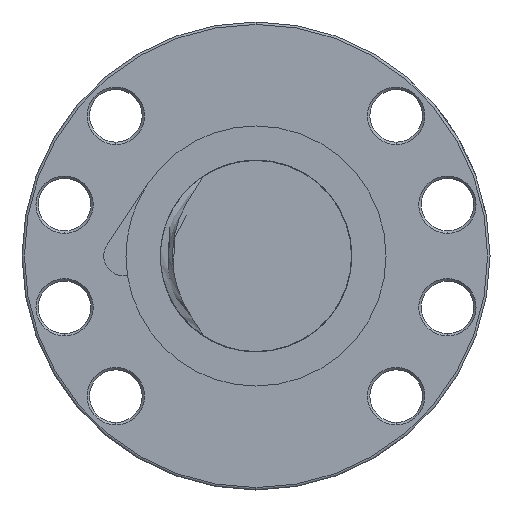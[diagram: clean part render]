
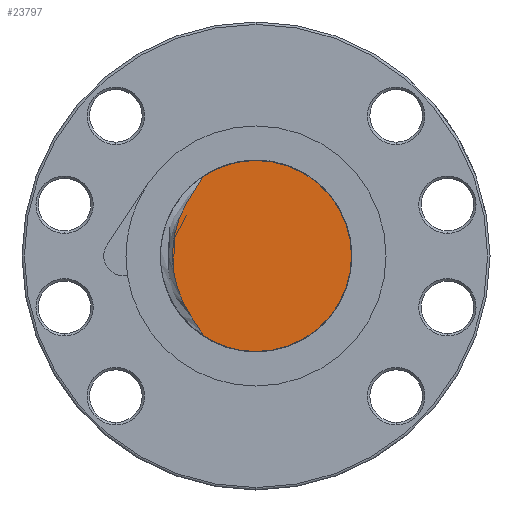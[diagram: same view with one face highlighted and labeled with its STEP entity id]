
A CAD part, left-side view. The second image highlights one B-rep face of the part: STEP entity #23797.
In plain terms, the highlighted planar face has unit normal (-1, 0, 0).
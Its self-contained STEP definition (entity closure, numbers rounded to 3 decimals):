
#9391 = CARTESIAN_POINT ( 'NONE',  ( -320., 0., 0. ) ) ;
#9617 = DIRECTION ( 'NONE',  ( 0., 1., 0. ) ) ;
#9618 = DIRECTION ( 'NONE',  ( 1., 0., 0. ) ) ;
#9619 = AXIS2_PLACEMENT_3D ( 'NONE', #9391, #9618, #9617 ) ;
#9620 = CIRCLE ( 'NONE', #9619, 20. ) ;
#10094 = CARTESIAN_POINT ( 'NONE',  ( -320., 11.062, -16.663 ) ) ;
#10126 = CARTESIAN_POINT ( 'NONE',  ( -320., 0., -20. ) ) ;
#11433 = CIRCLE ( 'NONE', #11505, 20. ) ;
#11502 = DIRECTION ( 'NONE',  ( 0., 1., 0. ) ) ;
#11503 = DIRECTION ( 'NONE',  ( 1., 0., 0. ) ) ;
#11504 = CARTESIAN_POINT ( 'NONE',  ( -320., 0., 0. ) ) ;
#11505 = AXIS2_PLACEMENT_3D ( 'NONE', #11504, #11503, #11502 ) ;
#13303 = DIRECTION ( 'NONE',  ( 0., 0., -1. ) ) ;
#13304 = DIRECTION ( 'NONE',  ( 1., 0., 0. ) ) ;
#13305 = CARTESIAN_POINT ( 'NONE',  ( -320., 0., 0. ) ) ;
#13306 = AXIS2_PLACEMENT_3D ( 'NONE', #13305, #13304, #13303 ) ;
#13307 = PLANE ( 'NONE',  #13306 ) ;
#13308 = FACE_OUTER_BOUND ( 'NONE', #23798, .T. ) ;
#13416 = CARTESIAN_POINT ( 'NONE',  ( -320., 17.365, -3.005 ) ) ;
#13417 = CARTESIAN_POINT ( 'NONE',  ( -320., 17.565, -1.136 ) ) ;
#13418 = CARTESIAN_POINT ( 'NONE',  ( -320., 17.515, 0.759 ) ) ;
#13419 = CARTESIAN_POINT ( 'NONE',  ( -320., 17.474, 1.519 ) ) ;
#13420 = CARTESIAN_POINT ( 'NONE',  ( -320., 17.443, 1.9 ) ) ;
#13421 = CARTESIAN_POINT ( 'NONE',  ( -320., 17.322, 3.033 ) ) ;
#13422 = CARTESIAN_POINT ( 'NONE',  ( -320., 17.201, 3.779 ) ) ;
#13423 = CARTESIAN_POINT ( 'NONE',  ( -320., 16.726, 5.987 ) ) ;
#13424 = CARTESIAN_POINT ( 'NONE',  ( -320., 16.258, 7.424 ) ) ;
#13425 = CARTESIAN_POINT ( 'NONE',  ( -320., 15.041, 10.22 ) ) ;
#13426 = CARTESIAN_POINT ( 'NONE',  ( -320., 14.304, 11.543 ) ) ;
#13427 = CARTESIAN_POINT ( 'NONE',  ( -320., 13.079, 13.458 ) ) ;
#13428 = CARTESIAN_POINT ( 'NONE',  ( -320., 12.649, 14.084 ) ) ;
#13429 = CARTESIAN_POINT ( 'NONE',  ( -320., 12.01, 15.026 ) ) ;
#13430 = CARTESIAN_POINT ( 'NONE',  ( -320., 11.798, 15.34 ) ) ;
#13431 = CARTESIAN_POINT ( 'NONE',  ( -320., 11.497, 15.822 ) ) ;
#13432 = CARTESIAN_POINT ( 'NONE',  ( -320., 11.399, 15.984 ) ) ;
#13433 = CARTESIAN_POINT ( 'NONE',  ( -320., 11.216, 16.315 ) ) ;
#13434 = CARTESIAN_POINT ( 'NONE',  ( -320., 11.131, 16.485 ) ) ;
#13435 = CARTESIAN_POINT ( 'NONE',  ( -320., 11.061, 16.663 ) ) ;
#13437 = B_SPLINE_CURVE_WITH_KNOTS ( 'NONE', 3,
 ( #13435, #13434, #13433, #13432, #13431, #13430, #13429, #13428, #13427, #13426, #13425, #13424, #13423, #13422, #13421, #13420, #13419, #13418, #13417, #13416, #13536, #13535, #13534, #13533, #13532, #13531, #13530, #13529, #13528, #13527, #13526, #13525, #13524, #13523, #13522, #13521, #13520 ),
 .UNSPECIFIED., .F., .F.,
 ( 4, 2, 2, 2, 2, 2, 2, 2, 2, 1, 2, 2, 2, 2, 2, 2, 2, 2, 4 ),
 ( 0.012, 0.013, 0.013, 0.015, 0.017, 0.021, 0.026, 0.028, 0.029, 0.03, 0.035, 0.037, 0.039, 0.041, 0.043, 0.046, 0.047, 0.047, 0.048 ),
 .UNSPECIFIED. ) ;
#13520 = CARTESIAN_POINT ( 'NONE',  ( -320., 11.062, -16.663 ) ) ;
#13521 = CARTESIAN_POINT ( 'NONE',  ( -320., 11.132, -16.484 ) ) ;
#13522 = CARTESIAN_POINT ( 'NONE',  ( -320., 11.219, -16.312 ) ) ;
#13523 = CARTESIAN_POINT ( 'NONE',  ( -320., 11.403, -15.978 ) ) ;
#13524 = CARTESIAN_POINT ( 'NONE',  ( -320., 11.501, -15.815 ) ) ;
#13525 = CARTESIAN_POINT ( 'NONE',  ( -320., 11.804, -15.331 ) ) ;
#13526 = CARTESIAN_POINT ( 'NONE',  ( -320., 12.018, -15.016 ) ) ;
#13527 = CARTESIAN_POINT ( 'NONE',  ( -320., 12.659, -14.07 ) ) ;
#13528 = CARTESIAN_POINT ( 'NONE',  ( -320., 13.089, -13.442 ) ) ;
#13529 = CARTESIAN_POINT ( 'NONE',  ( -320., 13.909, -12.159 ) ) ;
#13530 = CARTESIAN_POINT ( 'NONE',  ( -320., 14.3, -11.507 ) ) ;
#13531 = CARTESIAN_POINT ( 'NONE',  ( -320., 15.022, -10.177 ) ) ;
#13532 = CARTESIAN_POINT ( 'NONE',  ( -320., 15.355, -9.5 ) ) ;
#13533 = CARTESIAN_POINT ( 'NONE',  ( -320., 15.956, -8.115 ) ) ;
#13534 = CARTESIAN_POINT ( 'NONE',  ( -320., 16.225, -7.409 ) ) ;
#13535 = CARTESIAN_POINT ( 'NONE',  ( -320., 16.693, -5.963 ) ) ;
#13536 = CARTESIAN_POINT ( 'NONE',  ( -320., 16.892, -5.224 ) ) ;
#15711 = CARTESIAN_POINT ( 'NONE',  ( -320., 0., 20. ) ) ;
#15712 = CARTESIAN_POINT ( 'NONE',  ( -320., 11.061, 16.663 ) ) ;
#15713 = DIRECTION ( 'NONE',  ( 0., 1., 0. ) ) ;
#15714 = DIRECTION ( 'NONE',  ( 1., 0., 0. ) ) ;
#15715 = CARTESIAN_POINT ( 'NONE',  ( -320., 0., 0. ) ) ;
#15716 = AXIS2_PLACEMENT_3D ( 'NONE', #15715, #15714, #15713 ) ;
#15721 = CIRCLE ( 'NONE', #15716, 20. ) ;
#23383 = EDGE_CURVE ( 'NONE', #23384, #23385, #15721, .T. ) ;
#23384 = VERTEX_POINT ( 'NONE', #15712 ) ;
#23385 = VERTEX_POINT ( 'NONE', #15711 ) ;
#23427 = EDGE_CURVE ( 'NONE', #23501, #23492, #9620, .T. ) ;
#23492 = VERTEX_POINT ( 'NONE', #10094 ) ;
#23501 = VERTEX_POINT ( 'NONE', #10126 ) ;
#23628 = EDGE_CURVE ( 'NONE', #23385, #23501, #11433, .T. ) ;
#23797 = ADVANCED_FACE ( 'NONE', ( #13308 ), #13307, .F. ) ;
#23798 = EDGE_LOOP ( 'NONE', ( #23895, #23896, #23830, #23831 ) ) ;
#23829 = EDGE_CURVE ( 'NONE', #23384, #23492, #13437, .T. ) ;
#23830 = ORIENTED_EDGE ( 'NONE', *, *, #23427, .F. ) ;
#23831 = ORIENTED_EDGE ( 'NONE', *, *, #23628, .F. ) ;
#23895 = ORIENTED_EDGE ( 'NONE', *, *, #23383, .F. ) ;
#23896 = ORIENTED_EDGE ( 'NONE', *, *, #23829, .T. ) ;
